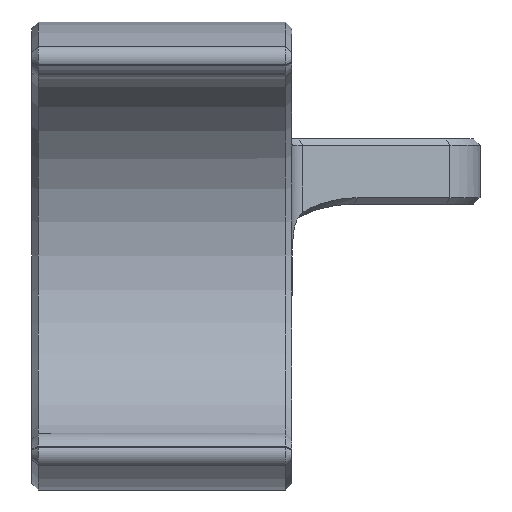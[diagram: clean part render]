
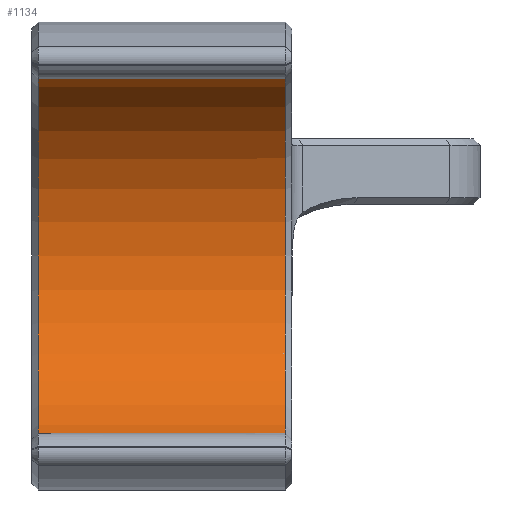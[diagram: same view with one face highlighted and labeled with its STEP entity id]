
A CAD part, left-side view. The second image highlights one B-rep face of the part: STEP entity #1134.
In plain terms, the highlighted cylindrical face has radius 7.5 mm (diameter 15 mm), a partial arc.
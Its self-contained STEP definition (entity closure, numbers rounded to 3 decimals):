
#39 = DIRECTION ( 'NONE',  ( 0., 0., 1. ) ) ;
#78 = CYLINDRICAL_SURFACE ( 'NONE', #272, 7.5 ) ;
#110 = DIRECTION ( 'NONE',  ( 0., -1., 0. ) ) ;
#170 = VERTEX_POINT ( 'NONE', #1505 ) ;
#206 = LINE ( 'NONE', #2177, #241 ) ;
#228 = CARTESIAN_POINT ( 'NONE',  ( -29.25, 0.25, 7.5 ) ) ;
#230 = ORIENTED_EDGE ( 'NONE', *, *, #1738, .F. ) ;
#241 = VECTOR ( 'NONE', #556, 1000. ) ;
#272 = AXIS2_PLACEMENT_3D ( 'NONE', #599, #634, #1356 ) ;
#349 = CIRCLE ( 'NONE', #2120, 7.5 ) ;
#556 = DIRECTION ( 'NONE',  ( 0., -1., 0. ) ) ;
#580 = LINE ( 'NONE', #1816, #691 ) ;
#599 = CARTESIAN_POINT ( 'NONE',  ( -29.25, 10., 0. ) ) ;
#629 = EDGE_CURVE ( 'NONE', #1146, #1231, #580, .T. ) ;
#634 = DIRECTION ( 'NONE',  ( 0., -1., 0. ) ) ;
#691 = VECTOR ( 'NONE', #766, 1000. ) ;
#766 = DIRECTION ( 'NONE',  ( 0., -1., 0. ) ) ;
#838 = DIRECTION ( 'NONE',  ( 0., 0., 1. ) ) ;
#951 = EDGE_CURVE ( 'NONE', #170, #969, #206, .T. ) ;
#969 = VERTEX_POINT ( 'NONE', #228 ) ;
#1000 = FACE_OUTER_BOUND ( 'NONE', #1023, .T. ) ;
#1006 = ORIENTED_EDGE ( 'NONE', *, *, #629, .T. ) ;
#1019 = CARTESIAN_POINT ( 'NONE',  ( -29.25, 9.75, 0. ) ) ;
#1023 = EDGE_LOOP ( 'NONE', ( #1121, #230, #1006, #1334 ) ) ;
#1121 = ORIENTED_EDGE ( 'NONE', *, *, #951, .F. ) ;
#1134 = ADVANCED_FACE ( 'NONE', ( #1000 ), #78, .F. ) ;
#1146 = VERTEX_POINT ( 'NONE', #2040 ) ;
#1231 = VERTEX_POINT ( 'NONE', #1399 ) ;
#1334 = ORIENTED_EDGE ( 'NONE', *, *, #1554, .F. ) ;
#1356 = DIRECTION ( 'NONE',  ( 0., 0., -1. ) ) ;
#1399 = CARTESIAN_POINT ( 'NONE',  ( -29.25, 0.25, -7.5 ) ) ;
#1454 = AXIS2_PLACEMENT_3D ( 'NONE', #1674, #2049, #39 ) ;
#1505 = CARTESIAN_POINT ( 'NONE',  ( -29.25, 9.75, 7.5 ) ) ;
#1554 = EDGE_CURVE ( 'NONE', #969, #1231, #1640, .T. ) ;
#1640 = CIRCLE ( 'NONE', #1454, 7.5 ) ;
#1674 = CARTESIAN_POINT ( 'NONE',  ( -29.25, 0.25, 0. ) ) ;
#1738 = EDGE_CURVE ( 'NONE', #1146, #170, #349, .T. ) ;
#1816 = CARTESIAN_POINT ( 'NONE',  ( -29.25, 10., -7.5 ) ) ;
#2040 = CARTESIAN_POINT ( 'NONE',  ( -29.25, 9.75, -7.5 ) ) ;
#2049 = DIRECTION ( 'NONE',  ( 0., 1., 0. ) ) ;
#2120 = AXIS2_PLACEMENT_3D ( 'NONE', #1019, #110, #838 ) ;
#2177 = CARTESIAN_POINT ( 'NONE',  ( -29.25, 10., 7.5 ) ) ;
